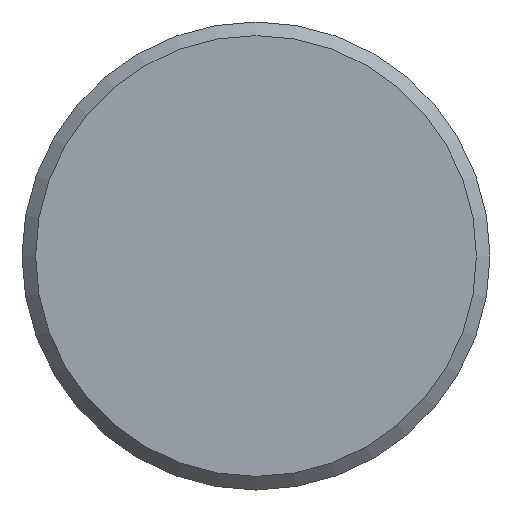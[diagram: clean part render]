
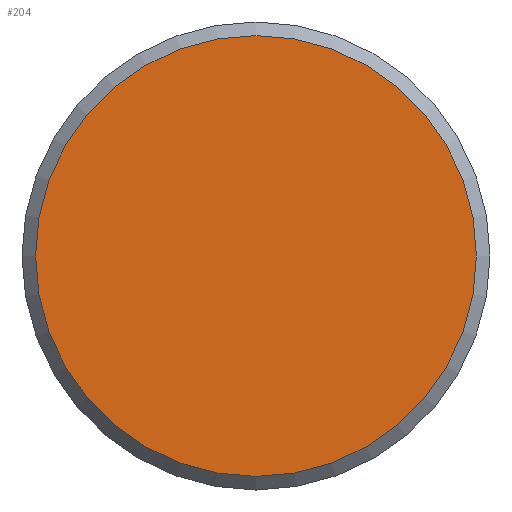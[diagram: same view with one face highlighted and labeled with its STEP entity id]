
A CAD part, left-side view. The second image highlights one B-rep face of the part: STEP entity #204.
In plain terms, the highlighted planar face has unit normal (-1, 0, 0).
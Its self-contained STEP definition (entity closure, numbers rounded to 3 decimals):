
#20=PLANE($,#238);
#51=FACE_OUTER_BOUND($,#79,.T.);
#79=EDGE_LOOP($,(#159));
#97=CIRCLE($,#234,2.057);
#113=VERTEX_POINT($,#347);
#129=EDGE_CURVE($,#113,#113,#97,.T.);
#159=ORIENTED_EDGE($,*,*,#129,.F.);
#204=ADVANCED_FACE($,(#51),#20,.T.);
#234=AXIS2_PLACEMENT_3D($,#348,#292,#293);
#238=AXIS2_PLACEMENT_3D($,#354,#300,#301);
#292=DIRECTION('center_axis',(1.,0.,0.));
#293=DIRECTION('ref_axis',(0.,-1.,0.));
#300=DIRECTION('center_axis',(-1.,0.,0.));
#301=DIRECTION('ref_axis',(0.,0.,1.));
#347=CARTESIAN_POINT('',(-7.849,8.799,0.));
#348=CARTESIAN_POINT('Origin',(-7.849,6.742,0.));
#354=CARTESIAN_POINT('Origin',(-7.849,7.834,0.));
